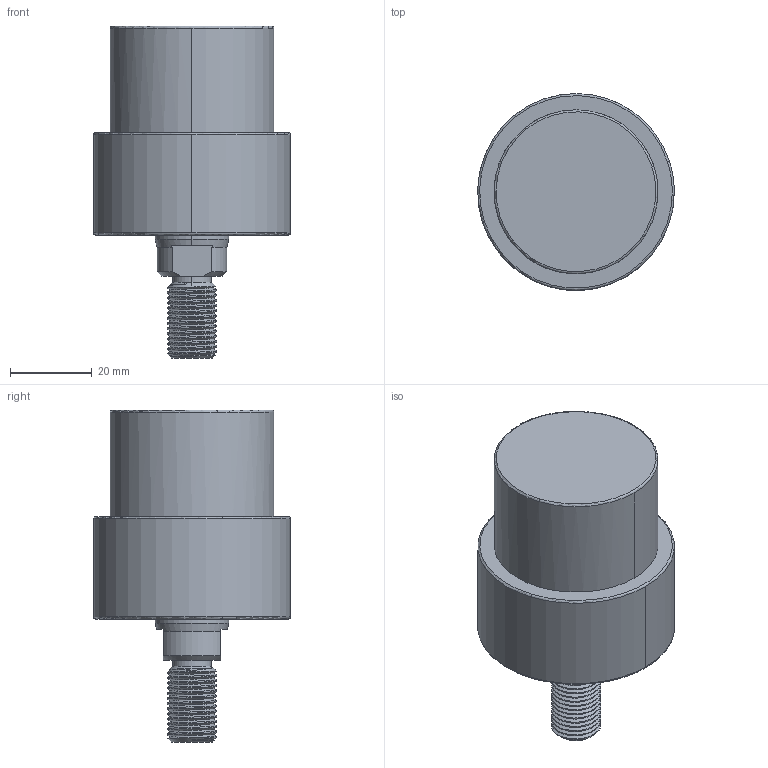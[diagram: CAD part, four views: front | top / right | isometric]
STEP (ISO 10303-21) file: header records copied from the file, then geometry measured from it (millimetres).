
FILE_DESCRIPTION((' '),'2;1');
FILE_NAME( 'TLLU-040GT-015.STEP.stp', '2025-10-24T16:37:13', (' '), ('--- Datakit www.datakit.com---'), ' Datakit CrossCadWare V2024.1 Dec 21 2023', 'Mastercam 2025', ' ');
FILE_SCHEMA(('AUTOMOTIVE_DESIGN { 1 0 10303 214 1 1 1 1 }'));
Length unit declared in the file: millimetre
Products named in the file (1): TLLU-040GT-015
Bounding box: 47.99 x 48 x 81 mm (x, y, z)
Volume: 81061.9 mm3; surface area: 13047.1 mm2
Topology: 1 solids, 1 shells, 94 faces, 333 edges, 242 vertices
Faces by surface type: cylinder 50, cone 24, plane 12, torus 6, bspline 2
Entity records: 9314 total; most frequent: CARTESIAN_POINT 6561, ORIENTED_EDGE 650, DIRECTION 502, EDGE_CURVE 325, VERTEX_POINT 242, AXIS2_PLACEMENT_3D 211, B_SPLINE_CURVE_WITH_KNOTS 127, CIRCLE 118
